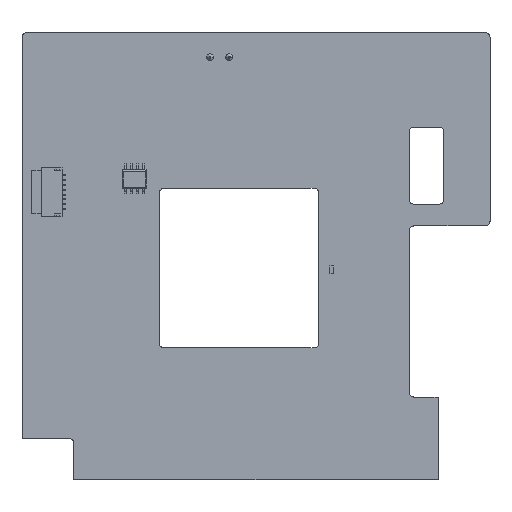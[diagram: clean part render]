
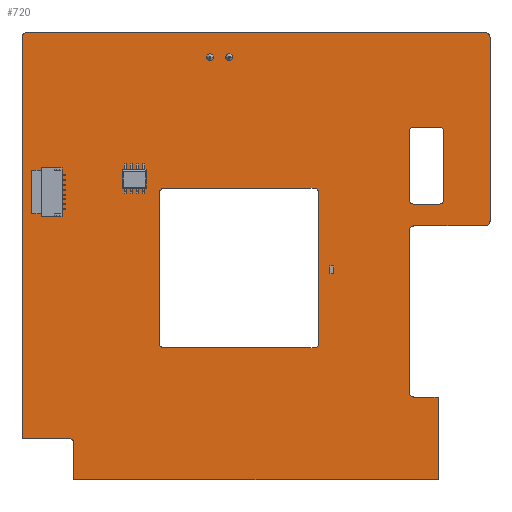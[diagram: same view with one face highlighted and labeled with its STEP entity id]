
A CAD part, top view. The second image highlights one B-rep face of the part: STEP entity #720.
In plain terms, the highlighted planar face has unit normal (0, 0, 1).
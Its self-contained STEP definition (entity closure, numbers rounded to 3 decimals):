
#93=CARTESIAN_POINT('',(-19.,-18.,1.6));
#94=DIRECTION('',(0.,0.,-1.));
#95=DIRECTION('',(0.,-1.,0.));
#96=AXIS2_PLACEMENT_3D('',#93,#94,#95);
#103=DIRECTION('',(0.,-1.,0.));
#104=VECTOR('',#103,31.);
#105=CARTESIAN_POINT('',(-20.,13.,1.6));
#106=LINE('',#105,#104);
#107=DIRECTION('',(1.,0.,0.));
#108=VECTOR('',#107,31.);
#109=CARTESIAN_POINT('',(-19.,-19.,1.6));
#110=LINE('',#109,#108);
#111=DIRECTION('',(0.,1.,0.));
#112=VECTOR('',#111,31.);
#113=CARTESIAN_POINT('',(13.,-18.,1.6));
#114=LINE('',#113,#112);
#115=DIRECTION('',(-1.,0.,0.));
#116=VECTOR('',#115,31.);
#117=CARTESIAN_POINT('',(12.,14.,1.6));
#118=LINE('',#117,#116);
#119=DIRECTION('',(0.,1.,0.));
#120=VECTOR('',#119,13.915);
#121=CARTESIAN_POINT('',(31.65,11.72,1.6));
#122=LINE('',#121,#120);
#123=DIRECTION('',(-1.,0.,0.));
#124=VECTOR('',#123,5.2);
#125=CARTESIAN_POINT('',(37.85,10.72,1.6));
#126=LINE('',#125,#124);
#127=DIRECTION('',(0.,-1.,0.));
#128=VECTOR('',#127,13.915);
#129=CARTESIAN_POINT('',(38.85,25.635,1.6));
#130=LINE('',#129,#128);
#131=DIRECTION('',(1.,0.,0.));
#132=VECTOR('',#131,5.2);
#133=CARTESIAN_POINT('',(32.65,26.635,1.6));
#134=LINE('',#133,#132);
#135=CARTESIAN_POINT('',(47.4,45.25,1.6));
#136=DIRECTION('',(0.,0.,1.));
#137=DIRECTION('',(1.,0.,0.));
#138=AXIS2_PLACEMENT_3D('',#135,#136,#137);
#140=DIRECTION('',(0.,1.,0.));
#141=VECTOR('',#140,38.03);
#142=CARTESIAN_POINT('',(48.4,7.22,1.6));
#143=LINE('',#142,#141);
#144=CARTESIAN_POINT('',(47.4,7.22,1.6));
#145=DIRECTION('',(0.,0.,1.));
#146=DIRECTION('',(0.,-1.,0.));
#147=AXIS2_PLACEMENT_3D('',#144,#145,#146);
#149=DIRECTION('',(-1.,0.,0.));
#150=VECTOR('',#149,14.75);
#151=CARTESIAN_POINT('',(47.4,6.22,1.6));
#152=LINE('',#151,#150);
#153=DIRECTION('',(0.,1.,0.));
#154=VECTOR('',#153,33.4);
#155=CARTESIAN_POINT('',(31.65,-28.18,1.6));
#156=LINE('',#155,#154);
#157=DIRECTION('',(-1.,0.,0.));
#158=VECTOR('',#157,5.);
#159=CARTESIAN_POINT('',(37.65,-29.18,1.6));
#160=LINE('',#159,#158);
#161=DIRECTION('',(1.,0.,0.));
#162=VECTOR('',#161,75.3);
#163=CARTESIAN_POINT('',(-37.65,-46.25,1.6));
#164=LINE('',#163,#162);
#165=DIRECTION('',(0.,1.,0.));
#166=VECTOR('',#165,7.5);
#167=CARTESIAN_POINT('',(-37.65,-46.25,1.6));
#168=LINE('',#167,#166);
#169=DIRECTION('',(1.,0.,0.));
#170=VECTOR('',#169,9.75);
#171=CARTESIAN_POINT('',(-48.4,-37.75,1.6));
#172=LINE('',#171,#170);
#173=DIRECTION('',(0.,-1.,0.));
#174=VECTOR('',#173,83.);
#175=CARTESIAN_POINT('',(-48.4,45.25,1.6));
#176=LINE('',#175,#174);
#177=CARTESIAN_POINT('',(-47.4,45.25,1.6));
#178=DIRECTION('',(0.,0.,1.));
#179=DIRECTION('',(0.,1.,0.));
#180=AXIS2_PLACEMENT_3D('',#177,#178,#179);
#182=DIRECTION('',(-1.,0.,0.));
#183=VECTOR('',#182,94.8);
#184=CARTESIAN_POINT('',(47.4,46.25,1.6));
#185=LINE('',#184,#183);
#194=CARTESIAN_POINT('',(-19.,13.,1.6));
#195=DIRECTION('',(0.,0.,-1.));
#196=DIRECTION('',(-1.,0.,0.));
#197=AXIS2_PLACEMENT_3D('',#194,#195,#196);
#212=CARTESIAN_POINT('',(12.,13.,1.6));
#213=DIRECTION('',(0.,0.,-1.));
#214=DIRECTION('',(0.,1.,0.));
#215=AXIS2_PLACEMENT_3D('',#212,#213,#214);
#230=CARTESIAN_POINT('',(12.,-18.,1.6));
#231=DIRECTION('',(0.,0.,-1.));
#232=DIRECTION('',(1.,0.,0.));
#233=AXIS2_PLACEMENT_3D('',#230,#231,#232);
#253=CARTESIAN_POINT('',(32.65,11.72,1.6));
#254=DIRECTION('',(0.,0.,-1.));
#255=DIRECTION('',(0.,-1.,0.));
#256=AXIS2_PLACEMENT_3D('',#253,#254,#255);
#271=CARTESIAN_POINT('',(37.85,11.72,1.6));
#272=DIRECTION('',(0.,0.,-1.));
#273=DIRECTION('',(1.,0.,0.));
#274=AXIS2_PLACEMENT_3D('',#271,#272,#273);
#289=CARTESIAN_POINT('',(37.85,25.635,1.6));
#290=DIRECTION('',(0.,0.,-1.));
#291=DIRECTION('',(0.,1.,0.));
#292=AXIS2_PLACEMENT_3D('',#289,#290,#291);
#307=CARTESIAN_POINT('',(32.65,25.635,1.6));
#308=DIRECTION('',(0.,0.,-1.));
#309=DIRECTION('',(-1.,0.,0.));
#310=AXIS2_PLACEMENT_3D('',#307,#308,#309);
#333=CARTESIAN_POINT('',(32.65,5.22,1.6));
#334=DIRECTION('',(0.,0.,-1.));
#335=DIRECTION('',(-1.,0.,0.));
#336=AXIS2_PLACEMENT_3D('',#333,#334,#335);
#351=CARTESIAN_POINT('',(32.65,-28.18,1.6));
#352=DIRECTION('',(0.,0.,-1.));
#353=DIRECTION('',(0.,-1.,0.));
#354=AXIS2_PLACEMENT_3D('',#351,#352,#353);
#368=DIRECTION('',(0.,1.,0.));
#369=VECTOR('',#368,17.07);
#370=CARTESIAN_POINT('',(37.65,-46.25,1.6));
#371=LINE('',#370,#369);
#384=CARTESIAN_POINT('',(-38.65,-38.75,1.6));
#385=DIRECTION('',(0.,0.,-1.));
#386=DIRECTION('',(0.,1.,0.));
#387=AXIS2_PLACEMENT_3D('',#384,#385,#386);
#415=CARTESIAN_POINT('',(-48.4,-37.75,1.6));
#417=VERTEX_POINT('',#415);
#419=CARTESIAN_POINT('',(-37.65,-46.25,1.6));
#421=VERTEX_POINT('',#419);
#423=CARTESIAN_POINT('',(37.65,-46.25,1.6));
#425=VERTEX_POINT('',#423);
#427=CARTESIAN_POINT('',(37.65,-29.18,1.6));
#429=VERTEX_POINT('',#427);
#430=CARTESIAN_POINT('',(-38.65,-37.75,1.6));
#432=VERTEX_POINT('',#430);
#434=CARTESIAN_POINT('',(-37.65,-38.75,1.6));
#436=VERTEX_POINT('',#434);
#438=CARTESIAN_POINT('',(-19.,-19.,1.6));
#440=VERTEX_POINT('',#438);
#442=CARTESIAN_POINT('',(-20.,-18.,1.6));
#444=VERTEX_POINT('',#442);
#446=CARTESIAN_POINT('',(-20.,13.,1.6));
#448=VERTEX_POINT('',#446);
#450=CARTESIAN_POINT('',(-19.,14.,1.6));
#452=VERTEX_POINT('',#450);
#454=CARTESIAN_POINT('',(13.,-18.,1.6));
#456=VERTEX_POINT('',#454);
#458=CARTESIAN_POINT('',(12.,-19.,1.6));
#460=VERTEX_POINT('',#458);
#462=CARTESIAN_POINT('',(12.,14.,1.6));
#464=VERTEX_POINT('',#462);
#466=CARTESIAN_POINT('',(13.,13.,1.6));
#468=VERTEX_POINT('',#466);
#471=CARTESIAN_POINT('',(31.65,-28.18,1.6));
#473=VERTEX_POINT('',#471);
#475=CARTESIAN_POINT('',(32.65,-29.18,1.6));
#477=VERTEX_POINT('',#475);
#479=CARTESIAN_POINT('',(32.65,6.22,1.6));
#481=VERTEX_POINT('',#479);
#483=CARTESIAN_POINT('',(31.65,5.22,1.6));
#485=VERTEX_POINT('',#483);
#487=CARTESIAN_POINT('',(31.65,11.72,1.6));
#489=VERTEX_POINT('',#487);
#491=CARTESIAN_POINT('',(32.65,10.72,1.6));
#493=VERTEX_POINT('',#491);
#495=CARTESIAN_POINT('',(37.85,10.72,1.6));
#497=VERTEX_POINT('',#495);
#499=CARTESIAN_POINT('',(38.85,11.72,1.6));
#501=VERTEX_POINT('',#499);
#503=CARTESIAN_POINT('',(32.65,26.635,1.6));
#505=VERTEX_POINT('',#503);
#507=CARTESIAN_POINT('',(31.65,25.635,1.6));
#509=VERTEX_POINT('',#507);
#511=CARTESIAN_POINT('',(38.85,25.635,1.6));
#513=VERTEX_POINT('',#511);
#515=CARTESIAN_POINT('',(37.85,26.635,1.6));
#517=VERTEX_POINT('',#515);
#522=CARTESIAN_POINT('',(48.4,45.25,1.6));
#523=VERTEX_POINT('',#522);
#524=CARTESIAN_POINT('',(47.4,46.25,1.6));
#525=VERTEX_POINT('',#524);
#530=CARTESIAN_POINT('',(47.4,6.22,1.6));
#531=VERTEX_POINT('',#530);
#532=CARTESIAN_POINT('',(48.4,7.22,1.6));
#533=VERTEX_POINT('',#532);
#538=CARTESIAN_POINT('',(-47.4,46.25,1.6));
#539=VERTEX_POINT('',#538);
#540=CARTESIAN_POINT('',(-48.4,45.25,1.6));
#541=VERTEX_POINT('',#540);
#647=CARTESIAN_POINT('',(0.,0.,1.6));
#648=DIRECTION('',(0.,0.,1.));
#649=DIRECTION('',(1.,0.,0.));
#650=AXIS2_PLACEMENT_3D('',#647,#648,#649);
#651=PLANE('',#650);
#653=ORIENTED_EDGE('',*,*,#652,.F.);
#655=ORIENTED_EDGE('',*,*,#654,.F.);
#657=ORIENTED_EDGE('',*,*,#656,.F.);
#659=ORIENTED_EDGE('',*,*,#658,.T.);
#661=ORIENTED_EDGE('',*,*,#660,.F.);
#663=ORIENTED_EDGE('',*,*,#662,.F.);
#665=ORIENTED_EDGE('',*,*,#664,.F.);
#667=ORIENTED_EDGE('',*,*,#666,.F.);
#669=ORIENTED_EDGE('',*,*,#668,.F.);
#671=ORIENTED_EDGE('',*,*,#670,.F.);
#673=ORIENTED_EDGE('',*,*,#672,.T.);
#675=ORIENTED_EDGE('',*,*,#674,.F.);
#677=ORIENTED_EDGE('',*,*,#676,.F.);
#679=ORIENTED_EDGE('',*,*,#678,.F.);
#681=ORIENTED_EDGE('',*,*,#680,.F.);
#683=ORIENTED_EDGE('',*,*,#682,.F.);
#684=EDGE_LOOP('',(#653,#655,#657,#659,#661,#663,#665,#667,#669,#671,#673,#675,
#677,#679,#681,#683));
#685=FACE_OUTER_BOUND('',#684,.F.);
#687=ORIENTED_EDGE('',*,*,#686,.F.);
#689=ORIENTED_EDGE('',*,*,#688,.F.);
#691=ORIENTED_EDGE('',*,*,#690,.F.);
#693=ORIENTED_EDGE('',*,*,#692,.F.);
#695=ORIENTED_EDGE('',*,*,#694,.F.);
#697=ORIENTED_EDGE('',*,*,#696,.F.);
#699=ORIENTED_EDGE('',*,*,#698,.F.);
#701=ORIENTED_EDGE('',*,*,#700,.F.);
#702=EDGE_LOOP('',(#687,#689,#691,#693,#695,#697,#699,#701));
#703=FACE_BOUND('',#702,.F.);
#705=ORIENTED_EDGE('',*,*,#704,.T.);
#706=ORIENTED_EDGE('',*,*,#639,.F.);
#707=ORIENTED_EDGE('',*,*,#628,.T.);
#709=ORIENTED_EDGE('',*,*,#708,.F.);
#711=ORIENTED_EDGE('',*,*,#710,.T.);
#713=ORIENTED_EDGE('',*,*,#712,.F.);
#715=ORIENTED_EDGE('',*,*,#714,.T.);
#717=ORIENTED_EDGE('',*,*,#716,.F.);
#718=EDGE_LOOP('',(#705,#706,#707,#709,#711,#713,#715,#717));
#719=FACE_BOUND('',#718,.F.);
#720=ADVANCED_FACE('',(#685,#703,#719),#651,.T.);
#97=CIRCLE('',#96,1.);
#139=CIRCLE('',#138,1.);
#148=CIRCLE('',#147,1.);
#181=CIRCLE('',#180,1.);
#198=CIRCLE('',#197,1.);
#216=CIRCLE('',#215,1.);
#234=CIRCLE('',#233,1.);
#257=CIRCLE('',#256,1.);
#275=CIRCLE('',#274,1.);
#293=CIRCLE('',#292,1.);
#311=CIRCLE('',#310,1.);
#337=CIRCLE('',#336,1.);
#355=CIRCLE('',#354,1.);
#388=CIRCLE('',#387,1.);
#628=EDGE_CURVE('',#440,#460,#110,.T.);
#639=EDGE_CURVE('',#440,#444,#97,.T.);
#652=EDGE_CURVE('',#523,#525,#139,.T.);
#654=EDGE_CURVE('',#533,#523,#143,.T.);
#656=EDGE_CURVE('',#531,#533,#148,.T.);
#658=EDGE_CURVE('',#531,#481,#152,.T.);
#660=EDGE_CURVE('',#485,#481,#337,.T.);
#662=EDGE_CURVE('',#473,#485,#156,.T.);
#664=EDGE_CURVE('',#477,#473,#355,.T.);
#666=EDGE_CURVE('',#429,#477,#160,.T.);
#668=EDGE_CURVE('',#425,#429,#371,.T.);
#670=EDGE_CURVE('',#421,#425,#164,.T.);
#672=EDGE_CURVE('',#421,#436,#168,.T.);
#674=EDGE_CURVE('',#432,#436,#388,.T.);
#676=EDGE_CURVE('',#417,#432,#172,.T.);
#678=EDGE_CURVE('',#541,#417,#176,.T.);
#680=EDGE_CURVE('',#539,#541,#181,.T.);
#682=EDGE_CURVE('',#525,#539,#185,.T.);
#686=EDGE_CURVE('',#489,#509,#122,.T.);
#688=EDGE_CURVE('',#493,#489,#257,.T.);
#690=EDGE_CURVE('',#497,#493,#126,.T.);
#692=EDGE_CURVE('',#501,#497,#275,.T.);
#694=EDGE_CURVE('',#513,#501,#130,.T.);
#696=EDGE_CURVE('',#517,#513,#293,.T.);
#698=EDGE_CURVE('',#505,#517,#134,.T.);
#700=EDGE_CURVE('',#509,#505,#311,.T.);
#704=EDGE_CURVE('',#448,#444,#106,.T.);
#708=EDGE_CURVE('',#456,#460,#234,.T.);
#710=EDGE_CURVE('',#456,#468,#114,.T.);
#712=EDGE_CURVE('',#464,#468,#216,.T.);
#714=EDGE_CURVE('',#464,#452,#118,.T.);
#716=EDGE_CURVE('',#448,#452,#198,.T.);
